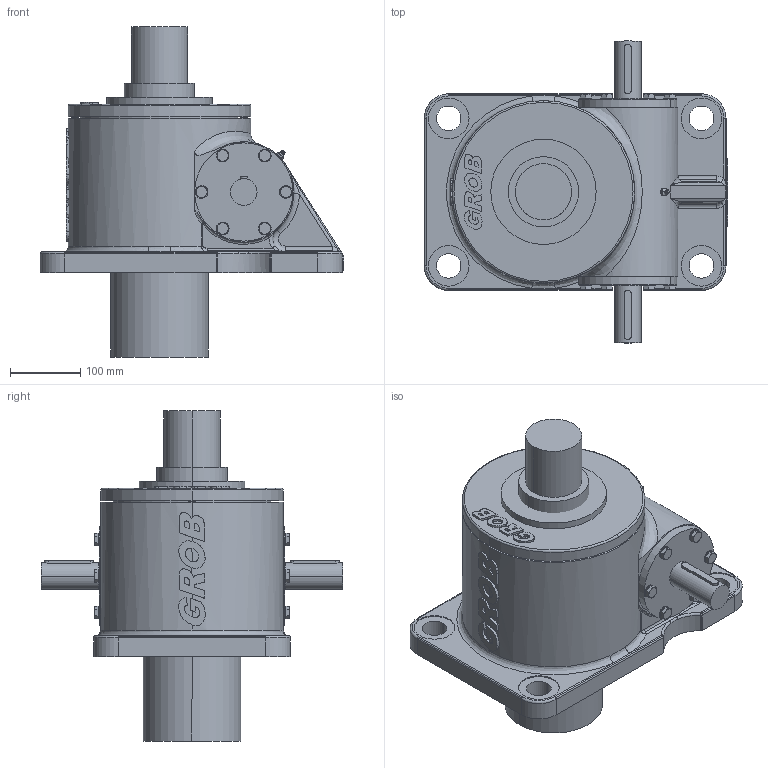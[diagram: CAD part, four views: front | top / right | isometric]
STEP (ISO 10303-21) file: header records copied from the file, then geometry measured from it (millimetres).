
FILE_DESCRIPTION(('STEP AP203'),'1');
FILE_NAME('mc35-gn-f-1f-ge-0100-0000-tr100x16-ab-o_0.stp','2023-12-18T13:33:12',('TraceParts'),('TraceParts S.A.'),'Spatial InterOp 3D',' ',' ');
FILE_SCHEMA(('CONFIG_CONTROL_DESIGN'));
Length unit declared in the file: millimetre
Products named in the file (1): 1
Bounding box: 432.6 x 430 x 470 mm (x, y, z)
Volume: 23146396.5 mm3; surface area: 798368.5 mm2
Topology: 5 solids, 5 shells, 2655 faces, 7220 edges, 4614 vertices
Faces by surface type: cylinder 1462, plane 819, bspline 236, cone 118, torus 14, sphere 6
Entity records: 87498 total; most frequent: CARTESIAN_POINT 18556, DIRECTION 15566, ORIENTED_EDGE 14408, EDGE_CURVE 7204, AXIS2_PLACEMENT_3D 6249, VERTEX_POINT 4614, CIRCLE 3804, LINE 3068
